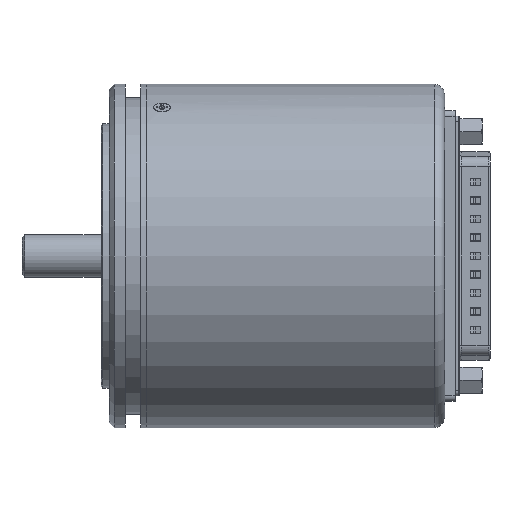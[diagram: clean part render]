
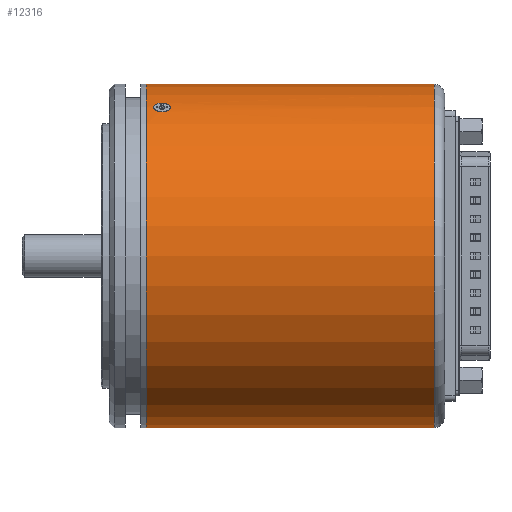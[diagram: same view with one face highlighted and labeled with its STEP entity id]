
A CAD part, front view. The second image highlights one B-rep face of the part: STEP entity #12316.
In plain terms, the highlighted cylindrical face has radius 32.5 mm (diameter 65 mm), a partial arc.
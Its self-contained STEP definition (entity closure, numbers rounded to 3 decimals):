
#82 = CARTESIAN_POINT ( 'NONE',  ( 10.703, -15.049, 28.806 ) ) ;
#216 = ORIENTED_EDGE ( 'NONE', *, *, #16858, .F. ) ;
#517 = CARTESIAN_POINT ( 'NONE',  ( 11.5, -14.878, 28.894 ) ) ;
#1130 = DIRECTION ( 'NONE',  ( 0., 0., 1. ) ) ;
#1183 = CARTESIAN_POINT ( 'NONE',  ( 63., 0., 32.5 ) ) ;
#1280 = DIRECTION ( 'NONE',  ( -1., 0., 0. ) ) ;
#1331 = CARTESIAN_POINT ( 'NONE',  ( 12.884, -15.561, 28.533 ) ) ;
#1528 = CARTESIAN_POINT ( 'NONE',  ( 65., 0., 0. ) ) ;
#1607 = CARTESIAN_POINT ( 'NONE',  ( 11.293, -17.576, 27.337 ) ) ;
#1748 = CARTESIAN_POINT ( 'NONE',  ( 11.396, -17.584, 27.332 ) ) ;
#1860 = LINE ( 'NONE', #20673, #7667 ) ;
#2000 = CARTESIAN_POINT ( 'NONE',  ( 10.107, -15.557, 28.535 ) ) ;
#2572 = CARTESIAN_POINT ( 'NONE',  ( 11.5, -17.584, 27.332 ) ) ;
#2575 = CARTESIAN_POINT ( 'NONE',  ( 12.295, -17.413, 27.441 ) ) ;
#2954 = AXIS2_PLACEMENT_3D ( 'NONE', #1528, #1280, #1130 ) ;
#3233 = CARTESIAN_POINT ( 'NONE',  ( 12.767, -15.412, 28.614 ) ) ;
#3933 = CARTESIAN_POINT ( 'NONE',  ( 11.294, -14.887, 28.89 ) ) ;
#4052 = CARTESIAN_POINT ( 'NONE',  ( 9.985, -15.805, 28.398 ) ) ;
#4128 = VERTEX_POINT ( 'NONE', #16736 ) ;
#4181 = CARTESIAN_POINT ( 'NONE',  ( 10.228, -15.403, 28.618 ) ) ;
#4243 = CARTESIAN_POINT ( 'NONE',  ( 12.935, -16.852, 27.79 ) ) ;
#4762 = CARTESIAN_POINT ( 'NONE',  ( 12.468, -17.319, 27.501 ) ) ;
#5164 = CARTESIAN_POINT ( 'NONE',  ( 11.708, -17.584, 27.332 ) ) ;
#5395 = EDGE_CURVE ( 'NONE', #17181, #4128, #7363, .T. ) ;
#5561 = CARTESIAN_POINT ( 'NONE',  ( 12.01, -14.947, 28.859 ) ) ;
#6109 = CARTESIAN_POINT ( 'NONE',  ( 9.91, -16.428, 28.043 ) ) ;
#6370 = CARTESIAN_POINT ( 'NONE',  ( 10.3, -17.141, 27.612 ) ) ;
#7196 = CARTESIAN_POINT ( 'NONE',  ( 12.203, -17.453, 27.416 ) ) ;
#7354 = CARTESIAN_POINT ( 'NONE',  ( 11.5, -17.584, 27.332 ) ) ;
#7363 = CIRCLE ( 'NONE', #24315, 32.5 ) ;
#7407 = ORIENTED_EDGE ( 'NONE', *, *, #5395, .T. ) ;
#7595 = CARTESIAN_POINT ( 'NONE',  ( 12.7, -15.342, 28.651 ) ) ;
#7667 = VECTOR ( 'NONE', #26947, 1000. ) ;
#7823 = CYLINDRICAL_SURFACE ( 'NONE', #2954, 32.5 ) ;
#7870 = DIRECTION ( 'NONE',  ( -1., 0., 0. ) ) ;
#8287 = CARTESIAN_POINT ( 'NONE',  ( 9.911, -16.069, 28.25 ) ) ;
#8326 = CARTESIAN_POINT ( 'NONE',  ( 8.5, 0., 0. ) ) ;
#8407 = CARTESIAN_POINT ( 'NONE',  ( 10.702, -17.421, 27.436 ) ) ;
#8651 = EDGE_LOOP ( 'NONE', ( #19983, #11369, #26455, #7407 ) ) ;
#9604 = EDGE_CURVE ( 'NONE', #13778, #4128, #1860, .T. ) ;
#9650 = CARTESIAN_POINT ( 'NONE',  ( 11.911, -14.922, 28.872 ) ) ;
#9918 = CARTESIAN_POINT ( 'NONE',  ( 11.5, -14.878, 28.894 ) ) ;
#10050 = CARTESIAN_POINT ( 'NONE',  ( 63., 0., 0. ) ) ;
#10172 = DIRECTION ( 'NONE',  ( 0., 0., -1. ) ) ;
#10189 = CARTESIAN_POINT ( 'NONE',  ( 10.065, -16.851, 27.79 ) ) ;
#10908 = CARTESIAN_POINT ( 'NONE',  ( 13.1, -16.429, 28.042 ) ) ;
#11369 = ORIENTED_EDGE ( 'NONE', *, *, #22034, .T. ) ;
#12042 = DIRECTION ( 'NONE',  ( -1., 0., 0. ) ) ;
#12258 = CARTESIAN_POINT ( 'NONE',  ( 9.952, -16.602, 27.94 ) ) ;
#12302 = EDGE_CURVE ( 'NONE', #17040, #17181, #15861, .T. ) ;
#12316 = ADVANCED_FACE ( 'NONE', ( #15740, #22133 ), #7823, .T. ) ;
#12529 = CARTESIAN_POINT ( 'NONE',  ( 9.9, -16.338, 28.095 ) ) ;
#12671 = CARTESIAN_POINT ( 'NONE',  ( 11.091, -17.543, 27.358 ) ) ;
#12705 = EDGE_LOOP ( 'NONE', ( #24861, #216 ) ) ;
#13095 = CARTESIAN_POINT ( 'NONE',  ( 12.55, -17.264, 27.536 ) ) ;
#13492 = CARTESIAN_POINT ( 'NONE',  ( 12.884, -16.93, 27.742 ) ) ;
#13778 = VERTEX_POINT ( 'NONE', #26584 ) ;
#14138 = CIRCLE ( 'NONE', #17625, 32.5 ) ;
#14140 = CARTESIAN_POINT ( 'NONE',  ( 11.708, -14.887, 28.89 ) ) ;
#14297 = VECTOR ( 'NONE', #12042, 1000. ) ;
#14557 = CARTESIAN_POINT ( 'NONE',  ( 9.953, -15.893, 28.349 ) ) ;
#14822 = B_SPLINE_CURVE_WITH_KNOTS ( 'NONE', 3,
 ( #20430, #18388, #3933, #18786, #18511, #82, #22613, #4181, #2000, #4052, #14557, #8287, #18660, #12529, #6109, #12258, #24507, #10189, #26802, #24786, #6370, #20833, #8407, #16732, #12671, #1607, #1748, #20678 ),
 .UNSPECIFIED., .F., .F.,
 ( 4, 2, 2, 2, 2, 2, 2, 2, 2, 2, 2, 2, 2, 4 ),
 ( 0.006, 0.006, 0.007, 0.007, 0.008, 0.008, 0.008, 0.009, 0.009, 0.009, 0.01, 0.01, 0.011, 0.011 ),
 .UNSPECIFIED. ) ;
#15519 = CARTESIAN_POINT ( 'NONE',  ( 12.699, -17.142, 27.612 ) ) ;
#15740 = FACE_OUTER_BOUND ( 'NONE', #8651, .T. ) ;
#15861 = LINE ( 'NONE', #20349, #14297 ) ;
#15919 = CARTESIAN_POINT ( 'NONE',  ( 11.603, -14.878, 28.894 ) ) ;
#16732 = CARTESIAN_POINT ( 'NONE',  ( 10.99, -17.519, 27.374 ) ) ;
#16736 = CARTESIAN_POINT ( 'NONE',  ( 8.5, 0., -32.5 ) ) ;
#16858 = EDGE_CURVE ( 'NONE', #18899, #25418, #14822, .T. ) ;
#17040 = VERTEX_POINT ( 'NONE', #1183 ) ;
#17181 = VERTEX_POINT ( 'NONE', #20245 ) ;
#17569 = CARTESIAN_POINT ( 'NONE',  ( 11.913, -17.551, 27.353 ) ) ;
#17625 = AXIS2_PLACEMENT_3D ( 'NONE', #10050, #7870, #10172 ) ;
#17978 = CARTESIAN_POINT ( 'NONE',  ( 12.299, -15.05, 28.805 ) ) ;
#18103 = CARTESIAN_POINT ( 'NONE',  ( 12.935, -15.642, 28.488 ) ) ;
#18388 = CARTESIAN_POINT ( 'NONE',  ( 11.397, -14.878, 28.894 ) ) ;
#18511 = CARTESIAN_POINT ( 'NONE',  ( 10.99, -14.948, 28.859 ) ) ;
#18660 = CARTESIAN_POINT ( 'NONE',  ( 9.9, -16.158, 28.199 ) ) ;
#18786 = CARTESIAN_POINT ( 'NONE',  ( 11.091, -14.921, 28.872 ) ) ;
#18899 = VERTEX_POINT ( 'NONE', #517 ) ;
#19215 = CARTESIAN_POINT ( 'NONE',  ( 13.1, -16.072, 28.248 ) ) ;
#19983 = ORIENTED_EDGE ( 'NONE', *, *, #9604, .F. ) ;
#20245 = CARTESIAN_POINT ( 'NONE',  ( 8.5, 0., 32.5 ) ) ;
#20349 = CARTESIAN_POINT ( 'NONE',  ( 65., 0., 32.5 ) ) ;
#20430 = CARTESIAN_POINT ( 'NONE',  ( 11.5, -14.878, 28.894 ) ) ;
#20673 = CARTESIAN_POINT ( 'NONE',  ( 65., 0., -32.5 ) ) ;
#20678 = CARTESIAN_POINT ( 'NONE',  ( 11.5, -17.584, 27.332 ) ) ;
#20833 = CARTESIAN_POINT ( 'NONE',  ( 10.524, -17.325, 27.498 ) ) ;
#20889 = CARTESIAN_POINT ( 'NONE',  ( 13.057, -16.608, 27.937 ) ) ;
#20940 = B_SPLINE_CURVE_WITH_KNOTS ( 'NONE', 3,
 ( #7354, #5164, #17569, #7196, #2575, #4762, #13095, #15519, #23834, #13492, #4243, #20889, #10908, #19215, #24372, #18103, #1331, #3233, #7595, #24222, #17978, #5561, #9650, #14140, #15919, #9918 ),
 .UNSPECIFIED., .F., .F.,
 ( 4, 2, 2, 2, 2, 2, 2, 2, 2, 2, 2, 2, 4 ),
 ( 0.001, 0.002, 0.002, 0.002, 0.003, 0.003, 0.003, 0.004, 0.004, 0.005, 0.005, 0.006, 0.006 ),
 .UNSPECIFIED. ) ;
#21005 = DIRECTION ( 'NONE',  ( 1., 0., 0. ) ) ;
#22034 = EDGE_CURVE ( 'NONE', #13778, #17040, #14138, .T. ) ;
#22133 = FACE_BOUND ( 'NONE', #12705, .T. ) ;
#22613 = CARTESIAN_POINT ( 'NONE',  ( 10.525, -15.151, 28.753 ) ) ;
#23834 = CARTESIAN_POINT ( 'NONE',  ( 12.766, -17.075, 27.653 ) ) ;
#24222 = CARTESIAN_POINT ( 'NONE',  ( 12.476, -15.151, 28.753 ) ) ;
#24315 = AXIS2_PLACEMENT_3D ( 'NONE', #8326, #21005, #24948 ) ;
#24372 = CARTESIAN_POINT ( 'NONE',  ( 13.057, -15.891, 28.351 ) ) ;
#24507 = CARTESIAN_POINT ( 'NONE',  ( 9.983, -16.687, 27.889 ) ) ;
#24786 = CARTESIAN_POINT ( 'NONE',  ( 10.232, -17.073, 27.655 ) ) ;
#24861 = ORIENTED_EDGE ( 'NONE', *, *, #26516, .F. ) ;
#24948 = DIRECTION ( 'NONE',  ( 0., 0., -1. ) ) ;
#25418 = VERTEX_POINT ( 'NONE', #2572 ) ;
#26455 = ORIENTED_EDGE ( 'NONE', *, *, #12302, .T. ) ;
#26516 = EDGE_CURVE ( 'NONE', #25418, #18899, #20940, .T. ) ;
#26584 = CARTESIAN_POINT ( 'NONE',  ( 63., 0., -32.5 ) ) ;
#26802 = CARTESIAN_POINT ( 'NONE',  ( 10.115, -16.928, 27.743 ) ) ;
#26947 = DIRECTION ( 'NONE',  ( -1., 0., 0. ) ) ;
